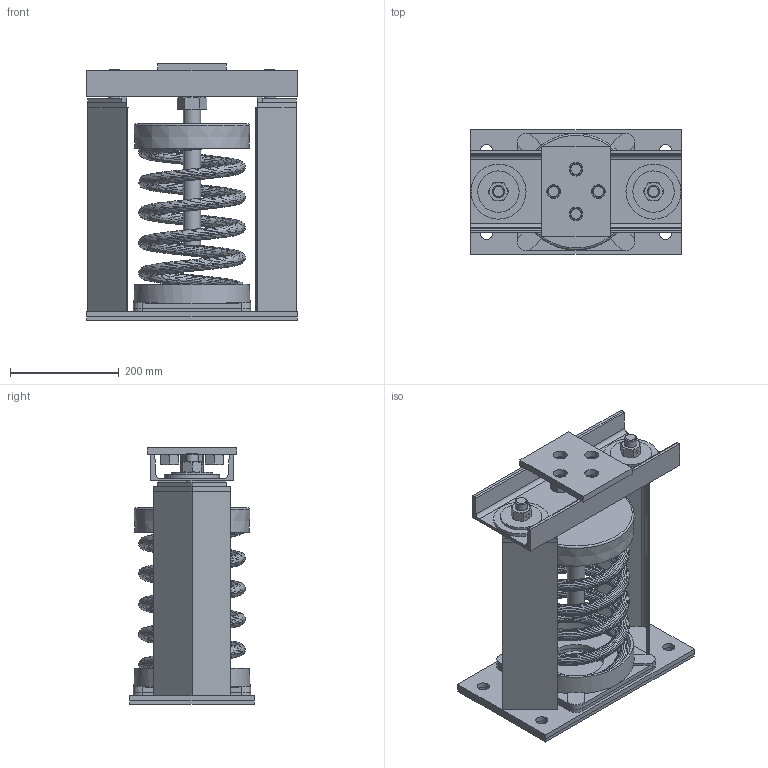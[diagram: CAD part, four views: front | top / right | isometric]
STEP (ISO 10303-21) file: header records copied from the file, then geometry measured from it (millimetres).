
FILE_DESCRIPTION(/* description */ (''),/* implementation_level */ '2;1');
FILE_NAME(/* name */ 'C:\001_Work\Designs\SLR-100 SERIES\SLR 100 SERIES (NON STOCK MOUNTS)\SLR 183-186\SLR-186.stp',/* time_stamp */ '2016-01-19T15:04:14-05:00',/* author */ ('rramoutar'),/* organization */ ('Mason Industries Inc.'),/* preprocessor_version */ 'ST-DEVELOPER v15.6',/* originating_system */ 'Autodesk Inventor 2015',/* authorisation */ '');
FILE_SCHEMA (('CONFIG_CONTROL_DESIGN'));
Length unit declared in the file: inch
Products named in the file (1): SLR-186 PER A-24019-1
Bounding box: 387.35 x 228.6 x 473.07 mm (x, y, z)
Volume: 5200887.1 mm3; surface area: 1867836.3 mm2
Topology: 31 solids, 31 shells, 524 faces, 1204 edges, 758 vertices
Faces by surface type: plane 302, cone 122, cylinder 75, bspline 22, torus 3
Full cylindrical faces by diameter (mm): 9.525 x2, 12.7 x4, 13.386 x1, 17.462 x2, 19.177 x6, 22.225 x10, 22.733 x2, 23.812 x2, 25.4 x4, 28.178 x1, 31.75 x1, 33.325 x2, 35.052 x1, 41.275 x2, 42.164 x1, 47.623 x2, 47.625 x2, 76.2 x2, 101.6 x4, 201.612 x2
Entity records: 30547 total; most frequent: CARTESIAN_POINT 19101, ORIENTED_EDGE 2198, DIRECTION 2136, EDGE_CURVE 1099, AXIS2_PLACEMENT_3D 810, VERTEX_POINT 729, EDGE_LOOP 680, STYLED_ITEM 555
